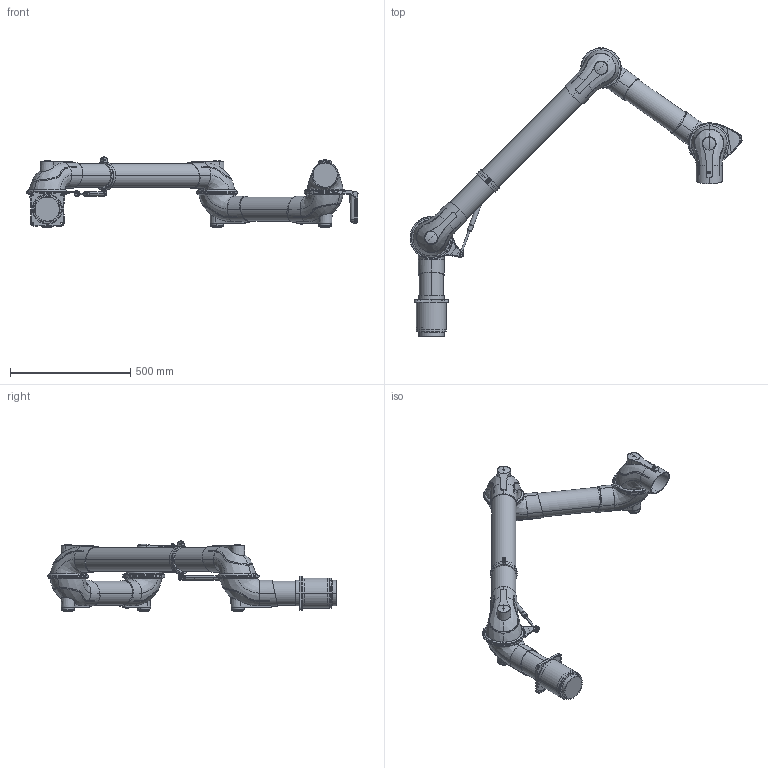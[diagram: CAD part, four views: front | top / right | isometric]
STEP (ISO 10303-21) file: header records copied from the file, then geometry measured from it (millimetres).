
FILE_DESCRIPTION((''),'2;1');
FILE_NAME('112006','2015-01-09T',('Tomas Bellgran'),(''),'PRO/ENGINEER BY PARAMETRIC TECHNOLOGY CORPORATION, 2013410','PRO/ENGINEER BY PARAMETRIC TECHNOLOGY CORPORATION, 2013410','');
FILE_SCHEMA(('AUTOMOTIVE_DESIGN { 1 0 10303 214 1 1 1 1 }'));
Length unit declared in the file: millimetre
Products named in the file (38): 100945; 100252; 100940; 100935; 100249; 100002; 100314; 100827; 101106; 100990; 100010; 100001; 100003; 100188; 100190; 9900055; 120884; 100279; 100275; 100002_AF10; 100291_AF5; 100001_AF5; 105-5481; 101156; 105-5810; 102135; 102086; 100337; TUBE_STAB_18-160-REF; KNOB_K5-D5; HOSE_K5-D5; STAB_K5-D5; 120897; 9903861; ROD_STAB_8-160-REF; STAB_K4-D4; 120897-REF; 112006
Assembly tree (43 placements, depth 4):
  112006
    100314
      100945
      100252
      100940
      100935  x2
      100249
      100002
    100990
      100827
      101106
    100010
    120884
      100001  x2
      100003
      100190
        100188
      9900055
    100275
      100279
      100001
    102086
      100002_AF10
      100291_AF5
      100001_AF5
      101156
        105-5481
      102135  x2
        105-5810
    100337
    120897
      TUBE_STAB_18-160-REF
      STAB_K5-D5
        KNOB_K5-D5
        HOSE_K5-D5
    9903861
    120897-REF
      ROD_STAB_8-160-REF
      STAB_K4-D4
    101156  x2
      105-5481
Bounding box: 1383.24 x 1201.43 x 291.79 mm (x, y, z)
Volume: 24958101.5 mm3; surface area: 1792989.8 mm2
Topology: 32 solids, 34 shells, 1320 faces, 3167 edges, 1927 vertices
Faces by surface type: bspline 386, plane 328, cylinder 284, cone 178, torus 86, sphere 47, extrusion 6, revolution 5
Entity records: 73055 total; most frequent: CARTESIAN_POINT 31492, ORIENTED_EDGE 4904, DIRECTION 4325, EDGE_CURVE 2452, PRESENTATION_STYLE_ASSIGNMENT 2417, STYLED_ITEM 2404, CURVE_STYLE 2125, AXIS2_PLACEMENT_3D 1772
